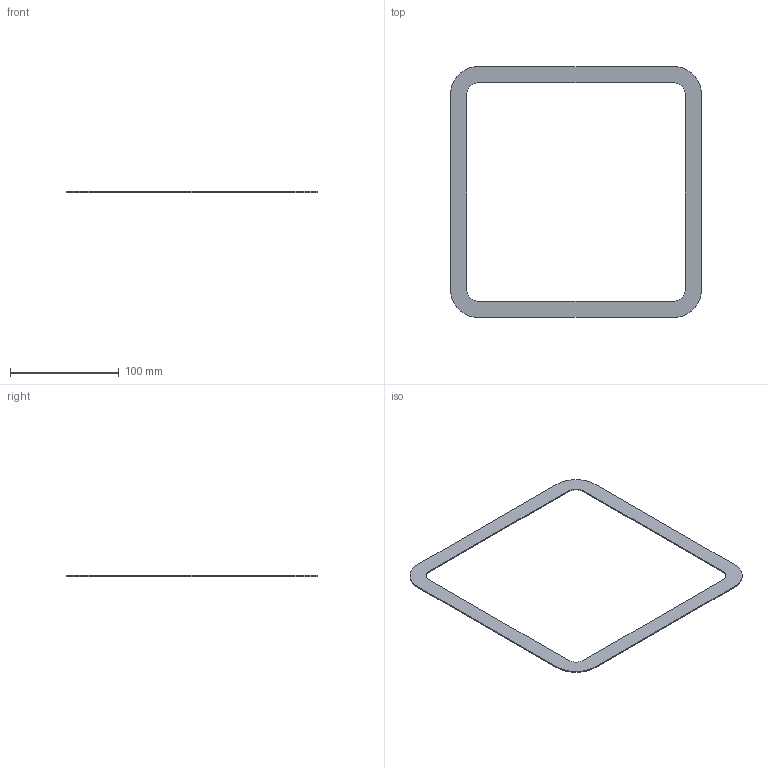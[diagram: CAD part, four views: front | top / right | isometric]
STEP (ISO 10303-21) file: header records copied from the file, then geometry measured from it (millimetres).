
FILE_DESCRIPTION(/* description */ ('STEP AP242 Edition 2','CAx-IF Rec.Pracs.---Representation and Presentation of Product Manufacturing Information (PMI)---4.0---2014-10-13','CAx-IF Rec.Pracs.---3D Tessellated Geometry---0.4---2014-09-14','2;1','CAx-IF Rec.Pracs.---User Defined Attributes---1.5---2016-08-15'),/* implementation_level */ '2;1');
FILE_NAME(/* name */ '693e1f333100820afeb07598',/* time_stamp */ '2025-12-14T02:21:40Z',/* author */ (''),/* organization */ (''),/* preprocessor_version */ 'ST-DEVELOPER v20',/* originating_system */ 'ONSHAPE BY PTC INC, 1.208',/* authorisation */ ' ');
FILE_SCHEMA (('AP242_MANAGED_MODEL_BASED_3D_ENGINEERING_MIM_LF { 1 0 10303 442 3 1 4 }'));
Length unit declared in the file: metre
Products named in the file (1): Gasket
Bounding box: 230.9 x 230.9 x 1 mm (x, y, z)
Volume: 12503.3 mm3; surface area: 26673.8 mm2
Topology: 1 solids, 1 shells, 18 faces, 48 edges, 32 vertices
Faces by surface type: plane 10, cylinder 8
Entity records: 594 total; most frequent: DIRECTION 102, CARTESIAN_POINT 99, ORIENTED_EDGE 96, EDGE_CURVE 48, AXIS2_PLACEMENT_3D 35, VERTEX_POINT 32, LINE 32, VECTOR 32
